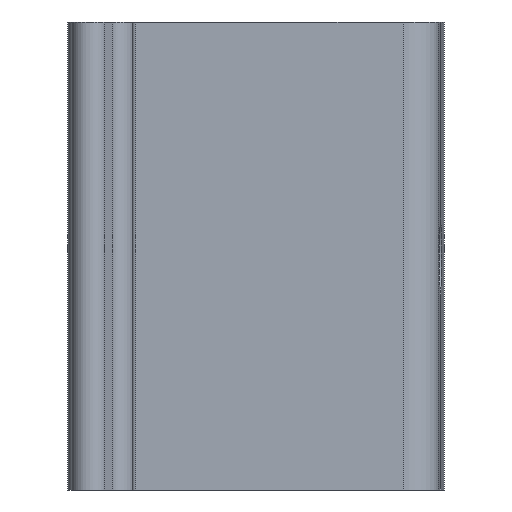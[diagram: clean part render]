
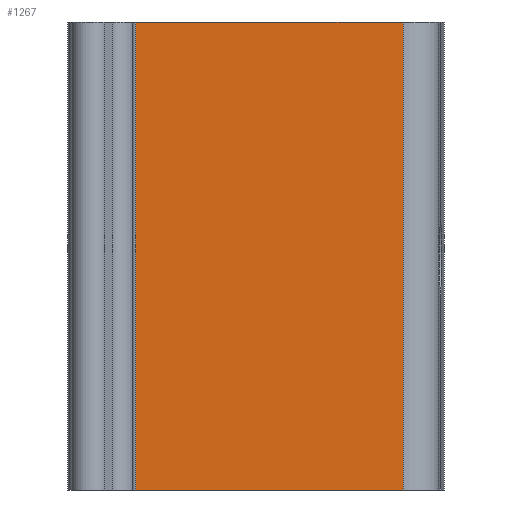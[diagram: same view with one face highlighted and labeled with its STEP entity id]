
A CAD part, front view. The second image highlights one B-rep face of the part: STEP entity #1267.
In plain terms, the highlighted planar face has unit normal (-0.028, -1, 0).
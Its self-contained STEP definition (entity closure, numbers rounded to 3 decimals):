
#83 = EDGE_CURVE ( 'NONE', #2976, #3734, #1062, .T. ) ;
#290 = CARTESIAN_POINT ( 'NONE',  ( 4.56, -23.1, -20. ) ) ;
#305 = EDGE_CURVE ( 'NONE', #3734, #2577, #1683, .T. ) ;
#557 = CARTESIAN_POINT ( 'NONE',  ( -18.308, -22.465, -20. ) ) ;
#726 = CARTESIAN_POINT ( 'NONE',  ( 4.56, -23.1, -20. ) ) ;
#765 = ORIENTED_EDGE ( 'NONE', *, *, #83, .F. ) ;
#923 = LINE ( 'NONE', #290, #1430 ) ;
#1062 = LINE ( 'NONE', #1847, #3087 ) ;
#1225 = CARTESIAN_POINT ( 'NONE',  ( -18.308, -22.465, 20. ) ) ;
#1267 = ADVANCED_FACE ( 'NONE', ( #1665 ), #2638, .F. ) ;
#1295 = EDGE_CURVE ( 'NONE', #1740, #2577, #923, .T. ) ;
#1430 = VECTOR ( 'NONE', #3206, 1000. ) ;
#1531 = LINE ( 'NONE', #1225, #2395 ) ;
#1554 = CARTESIAN_POINT ( 'NONE',  ( 4.56, -23.1, 20. ) ) ;
#1665 = FACE_OUTER_BOUND ( 'NONE', #3738, .T. ) ;
#1683 = LINE ( 'NONE', #1554, #3131 ) ;
#1740 = VERTEX_POINT ( 'NONE', #557 ) ;
#1847 = CARTESIAN_POINT ( 'NONE',  ( 4.56, -23.1, 20. ) ) ;
#1882 = CARTESIAN_POINT ( 'NONE',  ( 4.56, -23.1, 20. ) ) ;
#1915 = DIRECTION ( 'NONE',  ( 1., -0.028, 0. ) ) ;
#2358 = CARTESIAN_POINT ( 'NONE',  ( 4.56, -23.1, 20. ) ) ;
#2367 = AXIS2_PLACEMENT_3D ( 'NONE', #2358, #3803, #2604 ) ;
#2395 = VECTOR ( 'NONE', #2403, 1000. ) ;
#2403 = DIRECTION ( 'NONE',  ( 0., 0., -1. ) ) ;
#2492 = ORIENTED_EDGE ( 'NONE', *, *, #1295, .T. ) ;
#2577 = VERTEX_POINT ( 'NONE', #726 ) ;
#2604 = DIRECTION ( 'NONE',  ( -1., 0.028, 0. ) ) ;
#2638 = PLANE ( 'NONE',  #2367 ) ;
#2850 = ORIENTED_EDGE ( 'NONE', *, *, #305, .F. ) ;
#2976 = VERTEX_POINT ( 'NONE', #3283 ) ;
#3062 = ORIENTED_EDGE ( 'NONE', *, *, #3639, .T. ) ;
#3087 = VECTOR ( 'NONE', #1915, 1000. ) ;
#3131 = VECTOR ( 'NONE', #3270, 1000. ) ;
#3206 = DIRECTION ( 'NONE',  ( 1., -0.028, 0. ) ) ;
#3270 = DIRECTION ( 'NONE',  ( 0., 0., -1. ) ) ;
#3283 = CARTESIAN_POINT ( 'NONE',  ( -18.308, -22.465, 20. ) ) ;
#3639 = EDGE_CURVE ( 'NONE', #2976, #1740, #1531, .T. ) ;
#3734 = VERTEX_POINT ( 'NONE', #1882 ) ;
#3738 = EDGE_LOOP ( 'NONE', ( #2492, #2850, #765, #3062 ) ) ;
#3803 = DIRECTION ( 'NONE',  ( 0.028, 1., 0. ) ) ;
